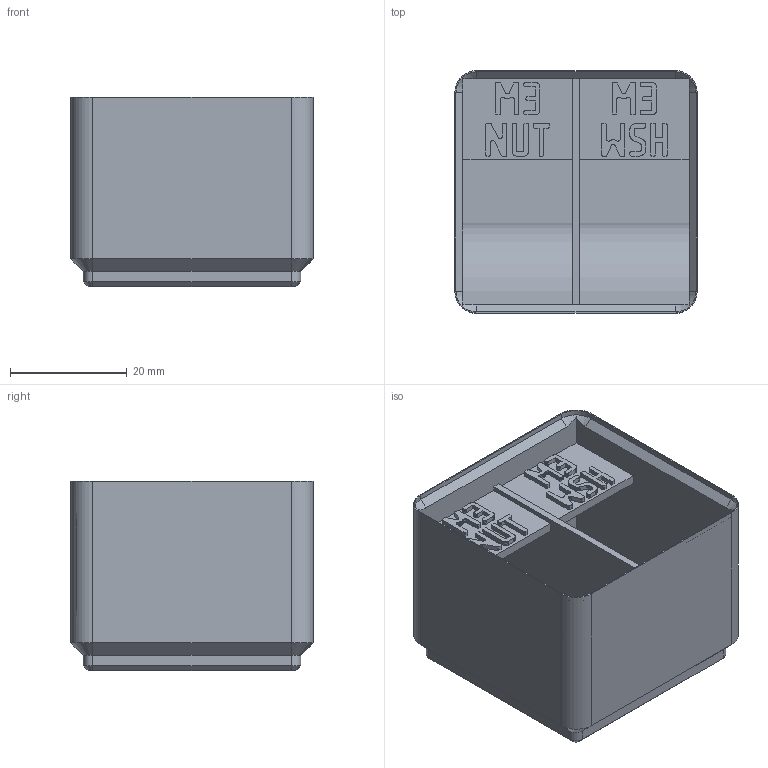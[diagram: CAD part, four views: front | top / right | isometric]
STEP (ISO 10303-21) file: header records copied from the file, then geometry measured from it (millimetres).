
FILE_DESCRIPTION(('Open CASCADE Model'),'2;1');
FILE_NAME('Open CASCADE Shape Model','2026-11-16T17:31:57',('Author'),( 'Open CASCADE'),'Open CASCADE STEP processor 8.0','build123d', 'Unknown');
FILE_SCHEMA(('AUTOMOTIVE_DESIGN { 1 0 10303 214 1 1 1 1 }'));
Products named in the file (1): SOLID
Bounding box: 41.5 x 41.5 x 32.4 mm (x, y, z)
Volume: 25452.2 mm3; surface area: 13437.7 mm2
Topology: 1 solids, 1 shells, 1126 faces, 3301 edges, 2190 vertices
Faces by surface type: plane 1100, cylinder 14, cone 12
Entity records: 77422 total; most frequent: CARTESIAN_POINT 15578, DIRECTION 9993, LINE 7639, VECTOR 7639, ORIENTED_EDGE 6602, PCURVE 6602, DEFINITIONAL_REPRESENTATION 6602, EDGE_CURVE 3301
